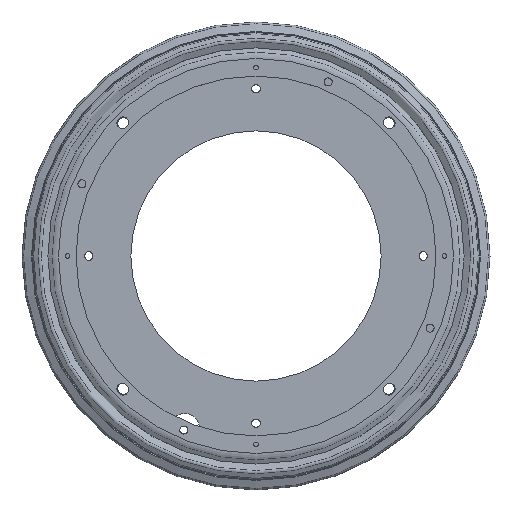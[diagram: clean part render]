
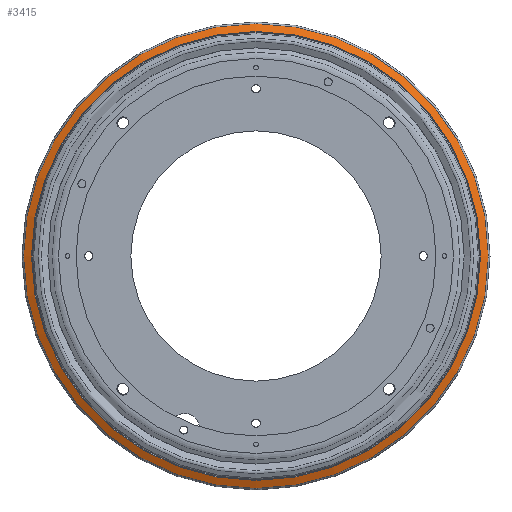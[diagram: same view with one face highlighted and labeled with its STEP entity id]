
A CAD part, top view. The second image highlights one B-rep face of the part: STEP entity #3415.
In plain terms, the highlighted conical face has half-angle 66.488 degrees and reference radius 147.809 mm.
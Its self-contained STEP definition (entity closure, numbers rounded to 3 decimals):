
#522=CONICAL_SURFACE('',#4020,147.809,1.16);
#647=FACE_OUTER_BOUND('',#939,.T.);
#939=EDGE_LOOP('',(#2944,#2945,#2946,#2947));
#1163=LINE('',#6133,#1242);
#1242=VECTOR('',#4960,147.809);
#1424=CIRCLE('',#4018,150.298);
#1426=CIRCLE('',#4021,145.319);
#1736=VERTEX_POINT('',#6128);
#1737=VERTEX_POINT('',#6132);
#2278=EDGE_CURVE('',#1736,#1736,#1424,.T.);
#2280=EDGE_CURVE('',#1736,#1737,#1163,.T.);
#2281=EDGE_CURVE('',#1737,#1737,#1426,.T.);
#2944=ORIENTED_EDGE('',*,*,#2278,.T.);
#2945=ORIENTED_EDGE('',*,*,#2280,.T.);
#2946=ORIENTED_EDGE('',*,*,#2281,.F.);
#2947=ORIENTED_EDGE('',*,*,#2280,.F.);
#3415=ADVANCED_FACE('',(#647),#522,.T.);
#4018=AXIS2_PLACEMENT_3D('',#6129,#4954,#4955);
#4020=AXIS2_PLACEMENT_3D('',#6131,#4958,#4959);
#4021=AXIS2_PLACEMENT_3D('',#6134,#4961,#4962);
#4954=DIRECTION('center_axis',(0.,0.,1.));
#4955=DIRECTION('ref_axis',(1.,0.,0.));
#4958=DIRECTION('center_axis',(0.,0.,-1.));
#4959=DIRECTION('ref_axis',(1.,0.,0.));
#4960=DIRECTION('',(0.917,0.,0.399));
#4961=DIRECTION('center_axis',(0.,0.,1.));
#4962=DIRECTION('ref_axis',(1.,0.,0.));
#6128=CARTESIAN_POINT('',(-150.298,0.,3.834));
#6129=CARTESIAN_POINT('Origin',(0.,0.,3.834));
#6131=CARTESIAN_POINT('Origin',(0.,0.,4.917));
#6132=CARTESIAN_POINT('',(-145.319,0.,6.));
#6133=CARTESIAN_POINT('',(-147.809,0.,4.917));
#6134=CARTESIAN_POINT('Origin',(0.,0.,6.));
